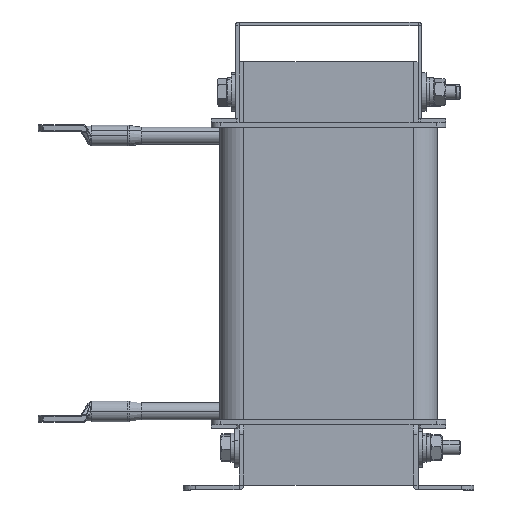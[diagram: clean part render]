
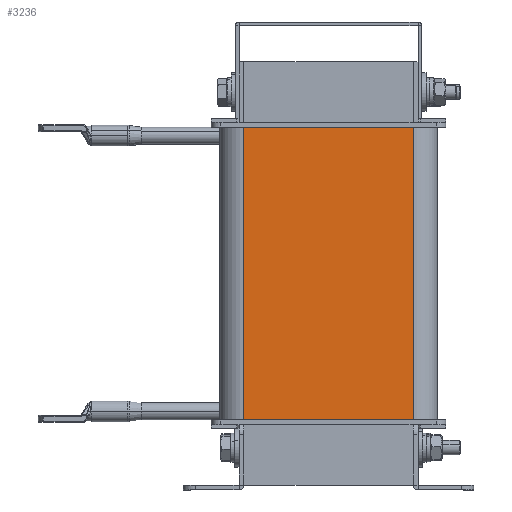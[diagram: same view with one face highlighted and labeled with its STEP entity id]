
A CAD part, left-side view. The second image highlights one B-rep face of the part: STEP entity #3236.
In plain terms, the highlighted planar face has unit normal (-1, 0, 0).
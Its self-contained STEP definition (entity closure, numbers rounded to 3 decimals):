
#186 = DIRECTION ( 'NONE',  ( 0., 0., -1. ) ) ;
#384 = VECTOR ( 'NONE', #663, 1000. ) ;
#663 = DIRECTION ( 'NONE',  ( 0., -1., 0. ) ) ;
#761 = ORIENTED_EDGE ( 'NONE', *, *, #2567, .F. ) ;
#768 = VECTOR ( 'NONE', #186, 1000. ) ;
#1122 = ORIENTED_EDGE ( 'NONE', *, *, #12179, .T. ) ;
#1163 = EDGE_CURVE ( 'NONE', #5365, #13659, #8923, .T. ) ;
#1295 = VERTEX_POINT ( 'NONE', #2563 ) ;
#2424 = CARTESIAN_POINT ( 'NONE',  ( -27., -35., -121. ) ) ;
#2563 = CARTESIAN_POINT ( 'NONE',  ( -27., 35., 0. ) ) ;
#2567 = EDGE_CURVE ( 'NONE', #1295, #13659, #10743, .T. ) ;
#2948 = DIRECTION ( 'NONE',  ( 0., -1., 0. ) ) ;
#2951 = CARTESIAN_POINT ( 'NONE',  ( -27., 45., -121. ) ) ;
#3236 = ADVANCED_FACE ( 'NONE', ( #11897 ), #13067, .T. ) ;
#3640 = CARTESIAN_POINT ( 'NONE',  ( -27., 35., -121. ) ) ;
#4222 = EDGE_LOOP ( 'NONE', ( #761, #1122, #9977, #4298 ) ) ;
#4275 = CARTESIAN_POINT ( 'NONE',  ( -27., -35., 0. ) ) ;
#4298 = ORIENTED_EDGE ( 'NONE', *, *, #1163, .T. ) ;
#5243 = EDGE_CURVE ( 'NONE', #11940, #5365, #12650, .T. ) ;
#5359 = DIRECTION ( 'NONE',  ( -1., 0., 0. ) ) ;
#5365 = VERTEX_POINT ( 'NONE', #9739 ) ;
#5767 = LINE ( 'NONE', #3640, #768 ) ;
#6875 = VECTOR ( 'NONE', #13505, 1000. ) ;
#8923 = LINE ( 'NONE', #2424, #6875 ) ;
#9451 = AXIS2_PLACEMENT_3D ( 'NONE', #2951, #5359, #14206 ) ;
#9739 = CARTESIAN_POINT ( 'NONE',  ( -27., -35., -121. ) ) ;
#9977 = ORIENTED_EDGE ( 'NONE', *, *, #5243, .T. ) ;
#10681 = CARTESIAN_POINT ( 'NONE',  ( -27., 45., -121. ) ) ;
#10743 = LINE ( 'NONE', #14204, #14084 ) ;
#11864 = CARTESIAN_POINT ( 'NONE',  ( -27., 35., -121. ) ) ;
#11897 = FACE_OUTER_BOUND ( 'NONE', #4222, .T. ) ;
#11940 = VERTEX_POINT ( 'NONE', #11864 ) ;
#12179 = EDGE_CURVE ( 'NONE', #1295, #11940, #5767, .T. ) ;
#12650 = LINE ( 'NONE', #10681, #384 ) ;
#13067 = PLANE ( 'NONE',  #9451 ) ;
#13505 = DIRECTION ( 'NONE',  ( 0., 0., 1. ) ) ;
#13659 = VERTEX_POINT ( 'NONE', #4275 ) ;
#14084 = VECTOR ( 'NONE', #2948, 1000. ) ;
#14204 = CARTESIAN_POINT ( 'NONE',  ( -27., 45., 0. ) ) ;
#14206 = DIRECTION ( 'NONE',  ( 0., 0., 1. ) ) ;
